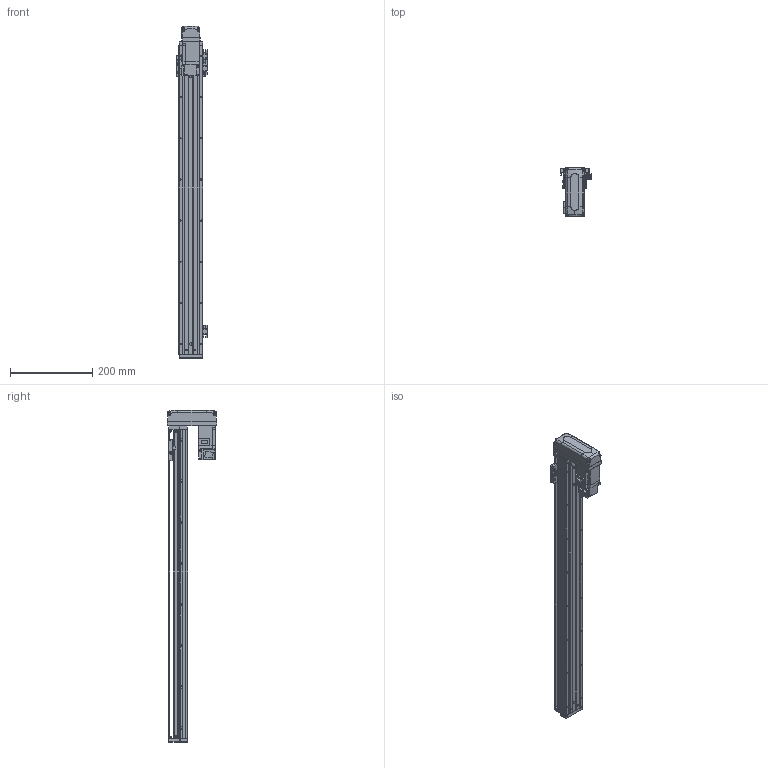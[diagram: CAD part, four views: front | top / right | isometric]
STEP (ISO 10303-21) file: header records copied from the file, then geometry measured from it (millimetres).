
FILE_DESCRIPTION (( 'STEP AP203' ), '1' );
FILE_NAME ('KTHA50-650-BM-M10-C4L.step', '2022-03-19T07:12:23', ( '微软用户' ), ( '微软中国' ), 'SwSTEP 2.0', 'SolidWorks 2020', '' );
FILE_SCHEMA (( 'CONFIG_CONTROL_DESIGN' ));
Length unit declared in the file: millimetre
Products named in the file (18): CTHA60-021; EE_SX911P_R; GBT 70.3-M3℅6; GBT77-2000 M3×3; HG-KR13（三菱）; KTHA50-001_750; GBT 70.1-M3℅6; CTHA50-015-2_CTHA60-015-2; KTHA50-002; CTHA60-017; CTHA60-033; KTHA50-004; GBT 70.1-M4×12; GBT 70.1-M3×15; KTHA50-005; CTHA60-016; KTHA50-650-BM-M10-C4L; GB¨uT 70.2-M3¡Á6_M3¡Á6
Assembly tree (53 placements, depth 2):
  KTHA50-650-BM-M10-C4L
    KTHA50-001_750
    KTHA50-002
    KTHA50-004
    KTHA50-005
    GB¨uT 70.2-M3¡Á6_M3¡Á6  x6
    EE_SX911P_R  x3
    GBT77-2000 M3×3  x6
    GBT 70.1-M3℅6  x6
    CTHA60-017  x3
    GBT 70.1-M4×12  x10
    CTHA60-016  x2
    CTHA60-021  x2
    GBT 70.3-M3℅6  x4
    HG-KR13（三菱）
    CTHA50-015-2_CTHA60-015-2
    CTHA60-033
    GBT 70.1-M3×15  x4
Bounding box: 75.22 x 120 x 807 mm (x, y, z)
Volume: 1580179.4 mm3; surface area: 386479.5 mm2
Topology: 56 solids, 56 shells, 2303 faces, 5463 edges, 3352 vertices
Faces by surface type: plane 1288, cylinder 562, cone 311, torus 100, bspline 26, sphere 16
Entity records: 39527 total; most frequent: CARTESIAN_POINT 7458, DIRECTION 6185, ORIENTED_EDGE 5938, EDGE_CURVE 2969, AXIS2_PLACEMENT_3D 2095, VECTOR 1995, LINE 1995, VERTEX_POINT 1866
